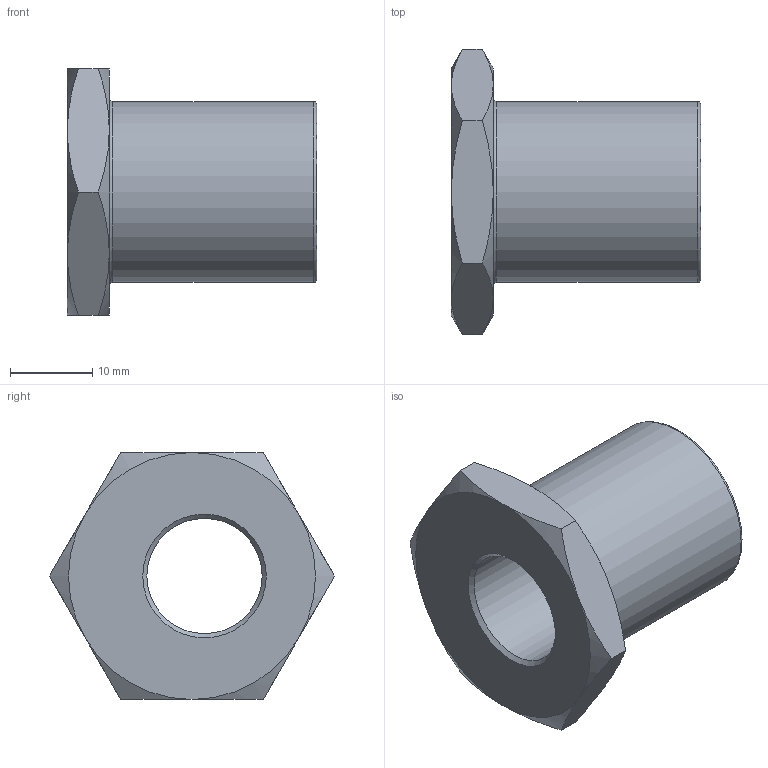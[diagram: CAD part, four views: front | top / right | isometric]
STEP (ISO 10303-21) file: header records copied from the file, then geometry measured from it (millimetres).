
FILE_DESCRIPTION( ( 'STEP AP214' ), '1' );
FILE_NAME( 'p:/temp/worker_28/temp/app_58_02019012316313618155274192d056f_000000_00_00_000000/format_0/M4XLPWBX.stp', '2019-01-23T15:31:37', ( '' ), ( '' ), ' ', 'PARTsolutions', ' ' );
FILE_SCHEMA( ( 'AUTOMOTIVE_DESIGN { 1 0 10303 214 1 1 1 1 }' ) );
Length unit declared in the file: inch
Products named in the file (1): _M4XLPWBX
Bounding box: 30.3 x 34.64 x 30 mm (x, y, z)
Volume: 8811.4 mm3; surface area: 4732.6 mm2
Topology: 1 solids, 1 shells, 27 faces, 56 edges, 32 vertices
Faces by surface type: cone 14, plane 9, torus 2, cylinder 2
Full cylindrical faces by diameter (mm): 14 x1, 21.99 x1
Entity records: 1012 total; most frequent: CARTESIAN_POINT 262, DIRECTION 102, ORIENTED_EDGE 100, EDGE_CURVE 50, AXIS2_PLACEMENT_3D 48, EDGE_LOOP 36, VERTEX_POINT 32, FACE_OUTER_BOUND 31
